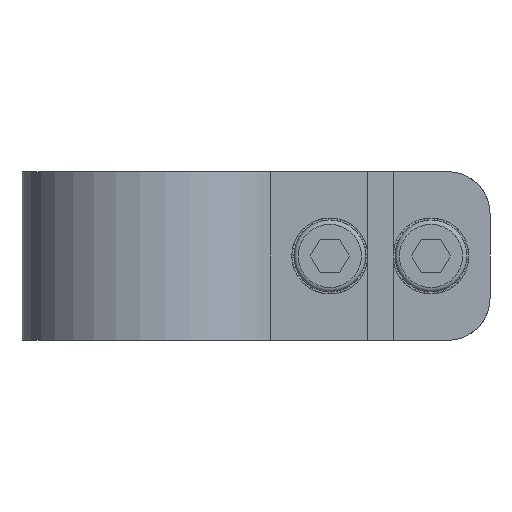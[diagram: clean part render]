
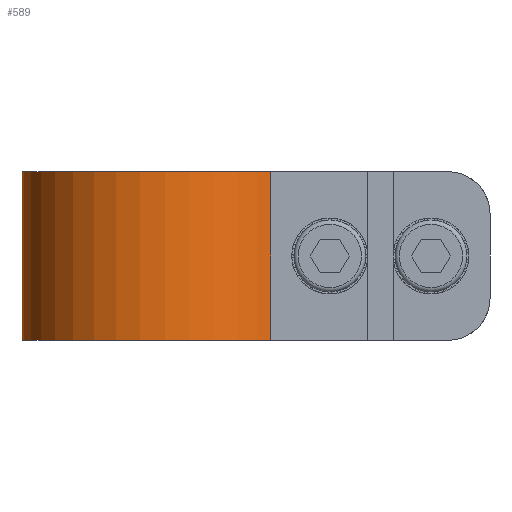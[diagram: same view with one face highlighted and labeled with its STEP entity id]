
A CAD part, left-side view. The second image highlights one B-rep face of the part: STEP entity #589.
In plain terms, the highlighted cylindrical face has radius 17 mm (diameter 34 mm), a partial arc.
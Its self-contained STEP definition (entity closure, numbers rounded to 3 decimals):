
#589=ADVANCED_FACE('',(#1290),#1291,.T.);
#1290=FACE_OUTER_BOUND('',#2178,.T.);
#1291=CYLINDRICAL_SURFACE('',#2179,17.0);
#2178=EDGE_LOOP('',(#3265,#3266,#3267,#3268));
#2179=AXIS2_PLACEMENT_3D('',#3269,#3270,#3271);
#3265=ORIENTED_EDGE('',*,*,#5647,.T.);
#3266=ORIENTED_EDGE('',*,*,#5648,.T.);
#3267=ORIENTED_EDGE('',*,*,#5649,.F.);
#3268=ORIENTED_EDGE('',*,*,#5650,.T.);
#3269=CARTESIAN_POINT('',(0.0,0.0,0.0));
#3270=DIRECTION('',(0.0,0.0,1.0));
#3271=DIRECTION('',(1.0,0.0,0.0));
#5647=EDGE_CURVE('',#6752,#6753,#6754,.T.);
#5648=EDGE_CURVE('',#6753,#6755,#6756,.T.);
#5649=EDGE_CURVE('',#6757,#6755,#6758,.T.);
#5650=EDGE_CURVE('',#6757,#6752,#6759,.F.);
#6752=VERTEX_POINT('',#8431);
#6753=VERTEX_POINT('',#8432);
#6754=CIRCLE('',#8433,17.0);
#6755=VERTEX_POINT('',#8434);
#6756=LINE('',#8435,#8436);
#6757=VERTEX_POINT('',#8437);
#6758=CIRCLE('',#8438,17.0);
#6759=LINE('',#8439,#8440);
#8431=CARTESIAN_POINT('',(10.957,-12.998,0.0));
#8432=CARTESIAN_POINT('',(-10.957,-12.998,0.0));
#8433=AXIS2_PLACEMENT_3D('',#10315,#10316,#10317);
#8434=CARTESIAN_POINT('',(-10.957,-12.998,20.0));
#8435=CARTESIAN_POINT('',(-10.957,-12.998,0.0));
#8436=VECTOR('',#10318,1.0);
#8437=CARTESIAN_POINT('',(10.957,-12.998,20.0));
#8438=AXIS2_PLACEMENT_3D('',#10319,#10320,#10321);
#8439=CARTESIAN_POINT('',(10.957,-12.998,0.0));
#8440=VECTOR('',#10322,1.0);
#10315=CARTESIAN_POINT('',(0.0,0.0,0.0));
#10316=DIRECTION('',(0.0,0.0,1.0));
#10317=DIRECTION('',(1.0,0.0,0.0));
#10318=DIRECTION('',(0.0,0.0,1.0));
#10319=CARTESIAN_POINT('',(0.0,0.0,20.0));
#10320=DIRECTION('',(0.0,0.0,1.0));
#10321=DIRECTION('',(1.0,0.0,0.0));
#10322=DIRECTION('',(0.0,0.0,1.0));
